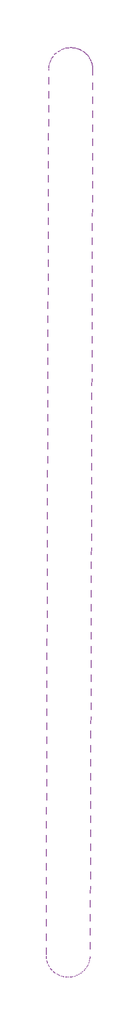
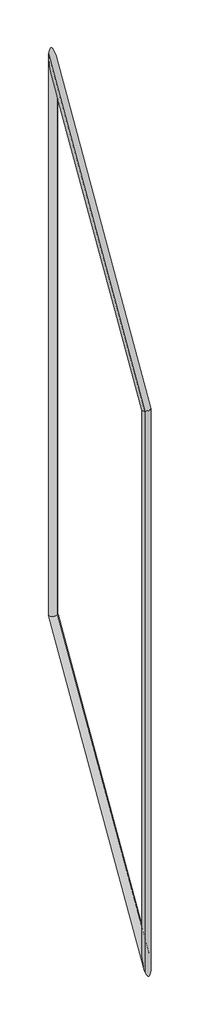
# One storey: 1 proxy.
"""IFC4 building model written with IfcOpenShell, lengths in millimetres."""

from ifc_helpers import new_model, si_unit, origin, place, context, project, spatial, transform, mapped, element, save
from components import generic_models_5ec7350c

model = new_model("IFC4")

# Units and contexts
model_context = context("Model", 3, world=origin())
ifc_project = project(units=[si_unit("LENGTHUNIT", "METRE", prefix="MILLI")], contexts=[model_context])

# Site, building, storey
site = spatial("IfcSite", under=ifc_project)
building = spatial("IfcBuilding", under=site)
storey = spatial("IfcBuildingStorey", under=building, Name="Nível 2", Elevation=4000.0)

# Proxy
placement = place(None, origin())
generic_models_shape = generic_models_5ec7350c(model_context)
element("IfcBuildingElementProxy", 1, Name="Família5 : Família5", ObjectType="Família5 : Família5", at=placement, inside=storey, context=model_context, shape_type="MappedRepresentation", body=[
    mapped(generic_models_shape, transform((-2362.72376, 2727.9402338, 7920.99736), x_axis=(-0.7410621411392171, 0.34789860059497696, 0.574276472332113), y_axis=(0.6714317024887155, 0.38718726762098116, 0.6318745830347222), z_axis=(-0.002524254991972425, 0.8538457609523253, -0.5205199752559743))),
])

save(model, "model.ifc")
